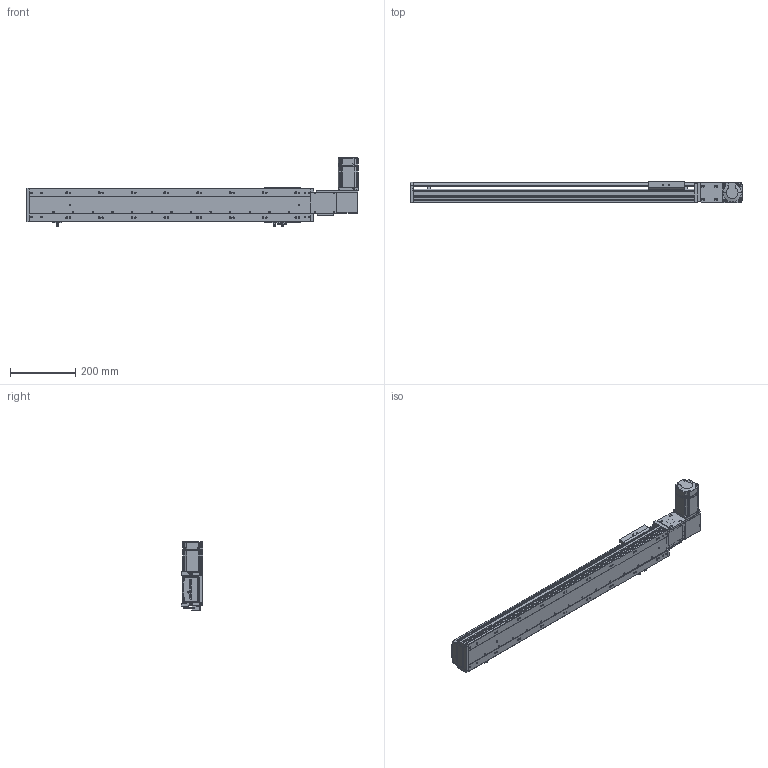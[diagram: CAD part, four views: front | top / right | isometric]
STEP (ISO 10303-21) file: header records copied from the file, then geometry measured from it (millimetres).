
FILE_DESCRIPTION (( 'STEP AP203' ), '1' );
FILE_NAME ('RY100-T-300-RK.SLDASM_650.step', '2024-04-25T08:22:03', ( '盈信电脑' ), ( '东莞市道滘镇水果街19号' ), 'SwSTEP 2.0', 'SolidWorks 2016', '' );
FILE_SCHEMA (( 'CONFIG_CONTROL_DESIGN' ));
Length unit declared in the file: millimetre
Products named in the file (15): RY100俋离覜茼え; RY100-T-300-RK倰第菁釱_650; 1; 覜茼ん672; RY100-T粣創揤踡裔; RY100-T-300-RK倰第奻裔_650; 滅袉蝶18-10; RY100-T翋肮祭謫裔啣2; RY100綴裔啣; 侂狟200W萇儂; RY80-T肮祭謫俋欶; RY100-T左右折电机安装板; RY100-T肮祭謫臏賑輸; RY100-T肮祭謫翋盓傅釱; RY100-T-300-RK.SLDASM_650
Assembly tree (18 placements, depth 3):
  RY100-T-300-RK.SLDASM_650
    RY100-T-300-RK倰第菁釱_650
    RY100-T-300-RK倰第奻裔_650
    RY100-T肮祭謫臏賑輸
    RY100綴裔啣
    覜茼ん672  x3
    RY100俋离覜茼え
    RY100-T肮祭謫翋盓傅釱
    RY100-T左右折电机安装板
    侂狟200W萇儂
      1
    RY100-T粣創揤踡裔
    滅袉蝶18-10  x2
    RY100-T翋肮祭謫裔啣2  x2
    RY80-T肮祭謫俋欶
Bounding box: 1014 x 66 x 209.7 mm (x, y, z)
Volume: 2064423.7 mm3; surface area: 831368.2 mm2
Topology: 17 solids, 17 shells, 2193 faces, 6110 edges, 3972 vertices
Faces by surface type: plane 1193, cylinder 789, cone 133, bspline 78
Entity records: 70254 total; most frequent: CARTESIAN_POINT 17079, ORIENTED_EDGE 10956, DIRECTION 10398, EDGE_CURVE 5478, VERTEX_POINT 3608, LINE 3542, VECTOR 3542, AXIS2_PLACEMENT_3D 3428
